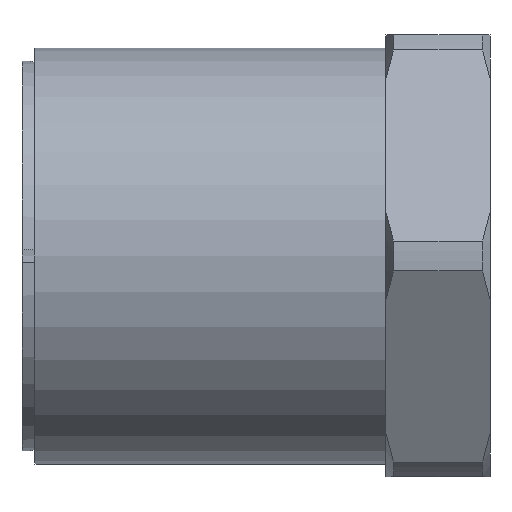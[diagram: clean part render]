
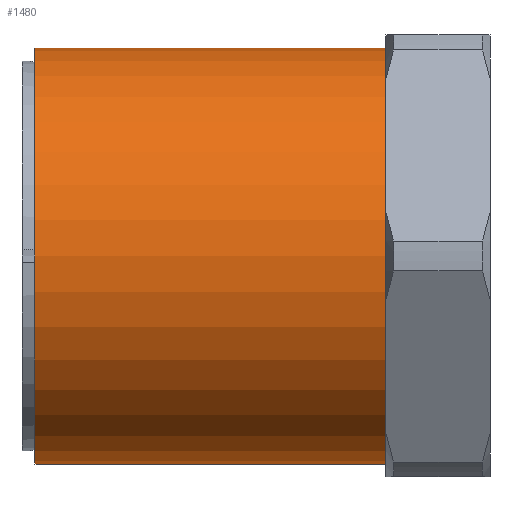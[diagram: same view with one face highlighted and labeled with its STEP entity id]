
A CAD part, front view. The second image highlights one B-rep face of the part: STEP entity #1480.
In plain terms, the highlighted cylindrical face has radius 16 mm (diameter 32 mm), a partial arc.
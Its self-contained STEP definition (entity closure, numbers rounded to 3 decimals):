
#52 = DIRECTION ( 'NONE',  ( -1., 0., 0. ) ) ;
#71 = DIRECTION ( 'NONE',  ( -1., 0., 0. ) ) ;
#83 = CARTESIAN_POINT ( 'NONE',  ( 0., 0., 16. ) ) ;
#84 = DIRECTION ( 'NONE',  ( 0., 0., 1. ) ) ;
#105 = VERTEX_POINT ( 'NONE', #712 ) ;
#178 = VERTEX_POINT ( 'NONE', #691 ) ;
#243 = VERTEX_POINT ( 'NONE', #678 ) ;
#480 = DIRECTION ( 'NONE',  ( -1., 0., 0. ) ) ;
#500 = CARTESIAN_POINT ( 'NONE',  ( 0., 0., 0. ) ) ;
#551 = CARTESIAN_POINT ( 'NONE',  ( 0., 0., -16. ) ) ;
#570 = CARTESIAN_POINT ( 'NONE',  ( 0., 0., 0. ) ) ;
#571 = DIRECTION ( 'NONE',  ( -1., 0., 0. ) ) ;
#575 = DIRECTION ( 'NONE',  ( 0., 0., 1. ) ) ;
#595 = DIRECTION ( 'NONE',  ( 0., 0., 1. ) ) ;
#596 = DIRECTION ( 'NONE',  ( -1., 0., 0. ) ) ;
#597 = CARTESIAN_POINT ( 'NONE',  ( 27., 0., 0. ) ) ;
#641 = CARTESIAN_POINT ( 'NONE',  ( 0., 0., 16. ) ) ;
#678 = CARTESIAN_POINT ( 'NONE',  ( 27., 0., -16. ) ) ;
#691 = CARTESIAN_POINT ( 'NONE',  ( 0., 0., -16. ) ) ;
#712 = CARTESIAN_POINT ( 'NONE',  ( 27., 0., 16. ) ) ;
#745 = VERTEX_POINT ( 'NONE', #641 ) ;
#758 = LINE ( 'NONE', #83, #1137 ) ;
#979 = AXIS2_PLACEMENT_3D ( 'NONE', #500, #480, #84 ) ;
#1005 = AXIS2_PLACEMENT_3D ( 'NONE', #570, #571, #575 ) ;
#1020 = AXIS2_PLACEMENT_3D ( 'NONE', #597, #596, #595 ) ;
#1067 = EDGE_CURVE ( 'NONE', #243, #105, #1243, .T. ) ;
#1094 = CIRCLE ( 'NONE', #979, 16. ) ;
#1108 = VECTOR ( 'NONE', #52, 1000. ) ;
#1137 = VECTOR ( 'NONE', #71, 1000. ) ;
#1138 = LINE ( 'NONE', #551, #1108 ) ;
#1172 = EDGE_LOOP ( 'NONE', ( #1423, #1408, #1402, #1403 ) ) ;
#1229 = CYLINDRICAL_SURFACE ( 'NONE', #1005, 16. ) ;
#1243 = CIRCLE ( 'NONE', #1020, 16. ) ;
#1251 = FACE_OUTER_BOUND ( 'NONE', #1172, .T. ) ;
#1402 = ORIENTED_EDGE ( 'NONE', *, *, #1615, .T. ) ;
#1403 = ORIENTED_EDGE ( 'NONE', *, *, #1618, .F. ) ;
#1408 = ORIENTED_EDGE ( 'NONE', *, *, #1067, .T. ) ;
#1423 = ORIENTED_EDGE ( 'NONE', *, *, #1626, .F. ) ;
#1480 = ADVANCED_FACE ( 'NONE', ( #1251 ), #1229, .T. ) ;
#1615 = EDGE_CURVE ( 'NONE', #105, #745, #758, .T. ) ;
#1618 = EDGE_CURVE ( 'NONE', #178, #745, #1094, .T. ) ;
#1626 = EDGE_CURVE ( 'NONE', #243, #178, #1138, .T. ) ;
